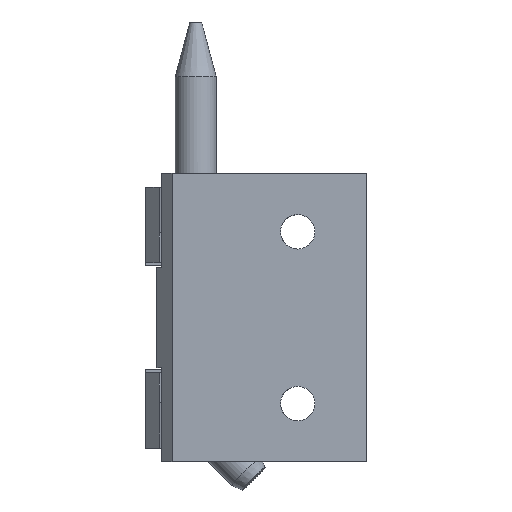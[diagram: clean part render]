
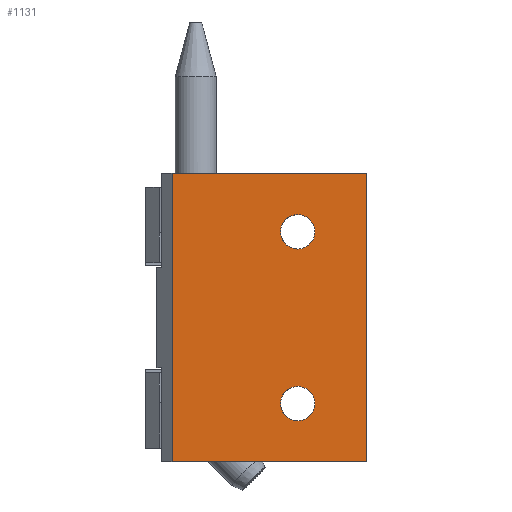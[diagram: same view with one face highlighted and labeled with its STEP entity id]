
A CAD part, left-side view. The second image highlights one B-rep face of the part: STEP entity #1131.
In plain terms, the highlighted planar face has unit normal (-1, 0, 0) as drawn and (0, -1, 0) by its records, which use the part's own axes.
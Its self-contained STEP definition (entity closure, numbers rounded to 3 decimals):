
#1122 = ORIENTED_EDGE ( 'NONE', *, *, #1137, .F. ) ;
#1125 = EDGE_LOOP ( 'NONE', ( #1134, #1154, #1376, #1317 ) ) ;
#1128 = EDGE_LOOP ( 'NONE', ( #1150, #1136 ) ) ;
#1129 = EDGE_LOOP ( 'NONE', ( #1122, #1132 ) ) ;
#1130 = EDGE_CURVE ( 'NONE', #1168, #1158, #2103, .T. ) ;
#1131 = ADVANCED_FACE ( 'NONE', ( #2099, #2120, #2119 ), #2118, .F. ) ;
#1132 = ORIENTED_EDGE ( 'NONE', *, *, #1212, .F. ) ;
#1134 = ORIENTED_EDGE ( 'NONE', *, *, #1130, .T. ) ;
#1136 = ORIENTED_EDGE ( 'NONE', *, *, #1174, .F. ) ;
#1137 = EDGE_CURVE ( 'NONE', #1216, #1213, #1945, .T. ) ;
#1150 = ORIENTED_EDGE ( 'NONE', *, *, #1152, .F. ) ;
#1152 = EDGE_CURVE ( 'NONE', #1195, #1198, #1898, .T. ) ;
#1154 = ORIENTED_EDGE ( 'NONE', *, *, #1170, .T. ) ;
#1158 = VERTEX_POINT ( 'NONE', #2044 ) ;
#1161 = VERTEX_POINT ( 'NONE', #1974 ) ;
#1162 = EDGE_CURVE ( 'NONE', #1164, #1168, #1973, .T. ) ;
#1164 = VERTEX_POINT ( 'NONE', #1969 ) ;
#1168 = VERTEX_POINT ( 'NONE', #1991 ) ;
#1170 = EDGE_CURVE ( 'NONE', #1158, #1161, #1990, .T. ) ;
#1174 = EDGE_CURVE ( 'NONE', #1198, #1195, #2020, .T. ) ;
#1195 = VERTEX_POINT ( 'NONE', #2127 ) ;
#1198 = VERTEX_POINT ( 'NONE', #2269 ) ;
#1212 = EDGE_CURVE ( 'NONE', #1213, #1216, #2277, .T. ) ;
#1213 = VERTEX_POINT ( 'NONE', #2180 ) ;
#1216 = VERTEX_POINT ( 'NONE', #2175 ) ;
#1317 = ORIENTED_EDGE ( 'NONE', *, *, #1162, .T. ) ;
#1376 = ORIENTED_EDGE ( 'NONE', *, *, #1420, .F. ) ;
#1420 = EDGE_CURVE ( 'NONE', #1164, #1161, #2543, .T. ) ;
#1898 = CIRCLE ( 'NONE', #2056, 2.5 ) ;
#1941 = DIRECTION ( 'NONE',  ( 0., 0., -1. ) ) ;
#1942 = DIRECTION ( 'NONE',  ( 0., -1., 0. ) ) ;
#1943 = CARTESIAN_POINT ( 'NONE',  ( 10., 0., 33.5 ) ) ;
#1944 = AXIS2_PLACEMENT_3D ( 'NONE', #1943, #1942, #1941 ) ;
#1945 = CIRCLE ( 'NONE', #1944, 2.5 ) ;
#1969 = CARTESIAN_POINT ( 'NONE',  ( 0., 0., 42. ) ) ;
#1970 = DIRECTION ( 'NONE',  ( 0., 0., -1. ) ) ;
#1971 = VECTOR ( 'NONE', #1970, 1000. ) ;
#1972 = CARTESIAN_POINT ( 'NONE',  ( 0., 0., 42. ) ) ;
#1973 = LINE ( 'NONE', #1972, #1971 ) ;
#1974 = CARTESIAN_POINT ( 'NONE',  ( 28.3, 0., 42. ) ) ;
#1987 = DIRECTION ( 'NONE',  ( 0., 0., 1. ) ) ;
#1988 = VECTOR ( 'NONE', #1987, 1000. ) ;
#1989 = CARTESIAN_POINT ( 'NONE',  ( 28.3, 0., 42. ) ) ;
#1990 = LINE ( 'NONE', #1989, #1988 ) ;
#1991 = CARTESIAN_POINT ( 'NONE',  ( 0., 0., 0. ) ) ;
#2016 = DIRECTION ( 'NONE',  ( 0., 0., -1. ) ) ;
#2017 = DIRECTION ( 'NONE',  ( 0., -1., 0. ) ) ;
#2018 = CARTESIAN_POINT ( 'NONE',  ( 10., 0., 8.5 ) ) ;
#2019 = AXIS2_PLACEMENT_3D ( 'NONE', #2018, #2017, #2016 ) ;
#2020 = CIRCLE ( 'NONE', #2019, 2.5 ) ;
#2044 = CARTESIAN_POINT ( 'NONE',  ( 28.3, 0., 0. ) ) ;
#2053 = DIRECTION ( 'NONE',  ( 0., 0., -1. ) ) ;
#2054 = DIRECTION ( 'NONE',  ( 0., -1., 0. ) ) ;
#2055 = CARTESIAN_POINT ( 'NONE',  ( 10., 0., 8.5 ) ) ;
#2056 = AXIS2_PLACEMENT_3D ( 'NONE', #2055, #2054, #2053 ) ;
#2099 = FACE_BOUND ( 'NONE', #1129, .T. ) ;
#2100 = DIRECTION ( 'NONE',  ( 1., 0., 0. ) ) ;
#2101 = VECTOR ( 'NONE', #2100, 1000. ) ;
#2102 = CARTESIAN_POINT ( 'NONE',  ( 0., 0., 0. ) ) ;
#2103 = LINE ( 'NONE', #2102, #2101 ) ;
#2114 = DIRECTION ( 'NONE',  ( 0., 0., 1. ) ) ;
#2115 = DIRECTION ( 'NONE',  ( 0., 1., 0. ) ) ;
#2116 = AXIS2_PLACEMENT_3D ( 'NONE', #2117, #2115, #2114 ) ;
#2117 = CARTESIAN_POINT ( 'NONE',  ( 0., 0., 42. ) ) ;
#2118 = PLANE ( 'NONE',  #2116 ) ;
#2119 = FACE_OUTER_BOUND ( 'NONE', #1125, .T. ) ;
#2120 = FACE_BOUND ( 'NONE', #1128, .T. ) ;
#2127 = CARTESIAN_POINT ( 'NONE',  ( 10., 0., 6. ) ) ;
#2175 = CARTESIAN_POINT ( 'NONE',  ( 10., 0., 31. ) ) ;
#2180 = CARTESIAN_POINT ( 'NONE',  ( 10., 0., 36. ) ) ;
#2181 = DIRECTION ( 'NONE',  ( 0., 0., -1. ) ) ;
#2182 = DIRECTION ( 'NONE',  ( 0., -1., 0. ) ) ;
#2269 = CARTESIAN_POINT ( 'NONE',  ( 10., 0., 11. ) ) ;
#2275 = CARTESIAN_POINT ( 'NONE',  ( 10., 0., 33.5 ) ) ;
#2276 = AXIS2_PLACEMENT_3D ( 'NONE', #2275, #2182, #2181 ) ;
#2277 = CIRCLE ( 'NONE', #2276, 2.5 ) ;
#2540 = DIRECTION ( 'NONE',  ( 1., 0., 0. ) ) ;
#2541 = VECTOR ( 'NONE', #2540, 1000. ) ;
#2542 = CARTESIAN_POINT ( 'NONE',  ( 0., 0., 42. ) ) ;
#2543 = LINE ( 'NONE', #2542, #2541 ) ;
